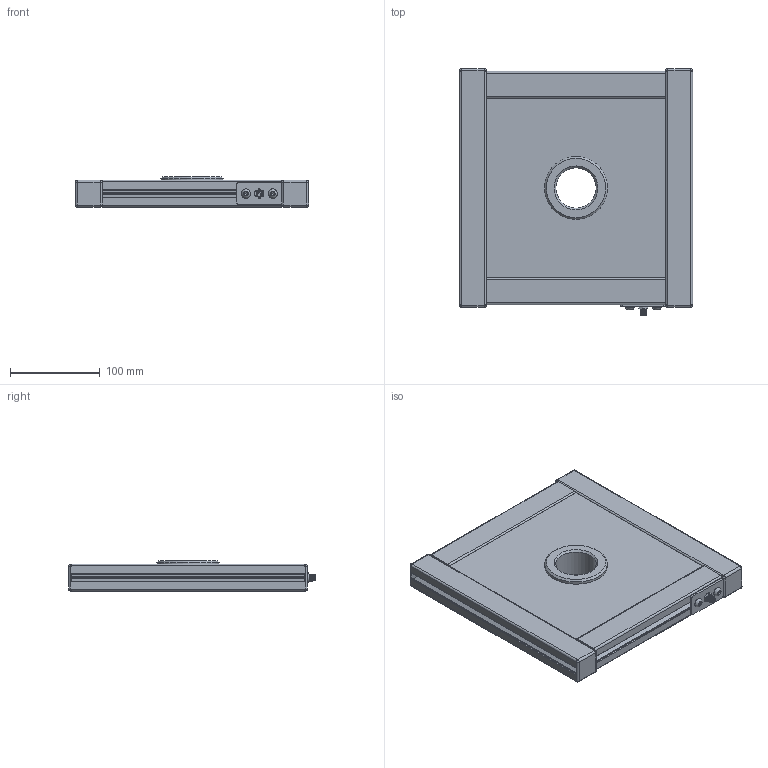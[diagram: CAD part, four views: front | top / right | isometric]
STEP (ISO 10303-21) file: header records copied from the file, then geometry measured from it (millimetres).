
FILE_DESCRIPTION (( 'STEP AP214' ), '1' );
FILE_NAME ('19027-STP01v01 - FL2020.STEP', '2019-10-01T20:10:02', ( '' ), ( '' ), 'SwSTEP 2.0', 'SolidWorks 2018', '' );
FILE_SCHEMA (( 'AUTOMOTIVE_DESIGN' ));
Length unit declared in the file: millimetre
Products named in the file (1): 19027-STP01v01 - FL2020
Bounding box: 260 x 275.01 x 33.6 mm (x, y, z)
Volume: 1377146 mm3; surface area: 397145.6 mm2
Topology: 1 solids, 21 shells, 810 faces, 2182 edges, 1394 vertices
Faces by surface type: plane 453, cylinder 299, cone 22, sphere 21, bspline 11, torus 4
Full cylindrical faces by diameter (mm): 1 x3, 5.8 x1, 6 x2, 6.5 x1, 6.9 x1, 10.5 x2, 45 x1, 70 x1, 74 x1
Entity records: 29126 total; most frequent: CARTESIAN_POINT 8092, DIRECTION 4257, ORIENTED_EDGE 4250, EDGE_CURVE 2125, AXIS2_PLACEMENT_3D 1437, VERTEX_POINT 1383, VECTOR 1383, LINE 1383
